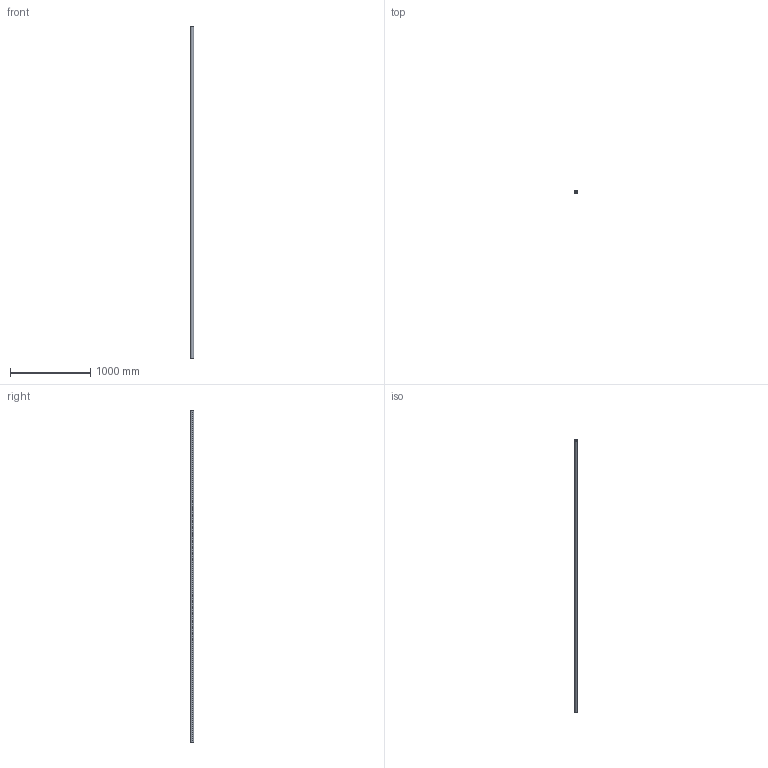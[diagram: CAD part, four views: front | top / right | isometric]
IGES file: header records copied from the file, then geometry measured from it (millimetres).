
Start section: SolidWorks IGES file using analytic representation for surfaces
Global section: file name: C:\Users\IanO\Desktop\L1771_v2\L1771.40_v2\L1771.40_v2_20230705_IGES\L1771.40-4150.igs; native system: SolidWorks 2019; preprocessor: SolidWorks 2019; author: IanO; date: 230705.162332; units: millimetre
Bounding box: 40 x 40 x 4150 mm (x, y, z)
Surface area: 887839.2 mm2 (no closed solid volume)
Topology: 0 solids, 0 shells, 6 faces, 272 edges, 272 vertices
Faces by surface type: revolution 4, bspline 2
